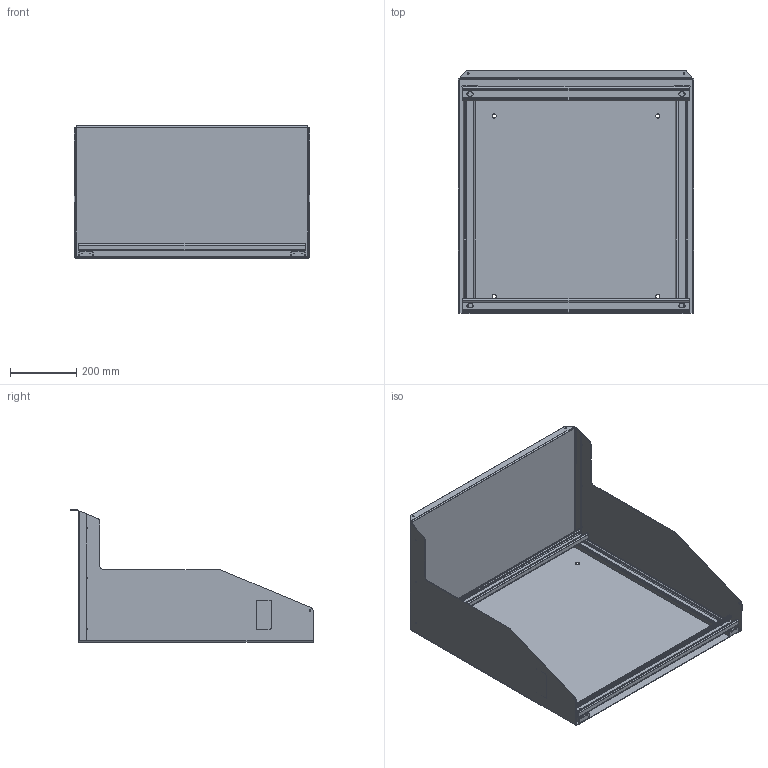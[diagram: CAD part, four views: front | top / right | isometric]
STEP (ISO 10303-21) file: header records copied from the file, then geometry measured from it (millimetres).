
FILE_DESCRIPTION (( 'STEP AP203' ), '1' );
FILE_NAME ('sw2lglwh.STEP', '2015-07-15T21:36:22', ( '' ), ( '' ), 'SwSTEP 2.0', 'SolidWorks 2010', '' );
FILE_SCHEMA (( 'CONFIG_CONTROL_DESIGN' ));
Length unit declared in the file: inch
Products named in the file (6): sw2lglwh; 89122553; 89123735; 89123734; 89122175; 87780048
Assembly tree (8 placements, depth 3):
  sw2lglwh
    89122553
      89123734
      89122175  x2
      89123735
    89122175  x2
    87780048
Bounding box: 711.2 x 736.6 x 399.87 mm (x, y, z)
Volume: 2550607.5 mm3; surface area: 2822153.3 mm2
Topology: 7 solids, 7 shells, 454 faces, 1014 edges, 592 vertices
Faces by surface type: plane 292, cylinder 158, bspline 4
Entity records: 8450 total; most frequent: CARTESIAN_POINT 1660, DIRECTION 1330, ORIENTED_EDGE 1200, EDGE_CURVE 600, AXIS2_PLACEMENT_3D 474, VECTOR 382, LINE 382, VERTEX_POINT 364
